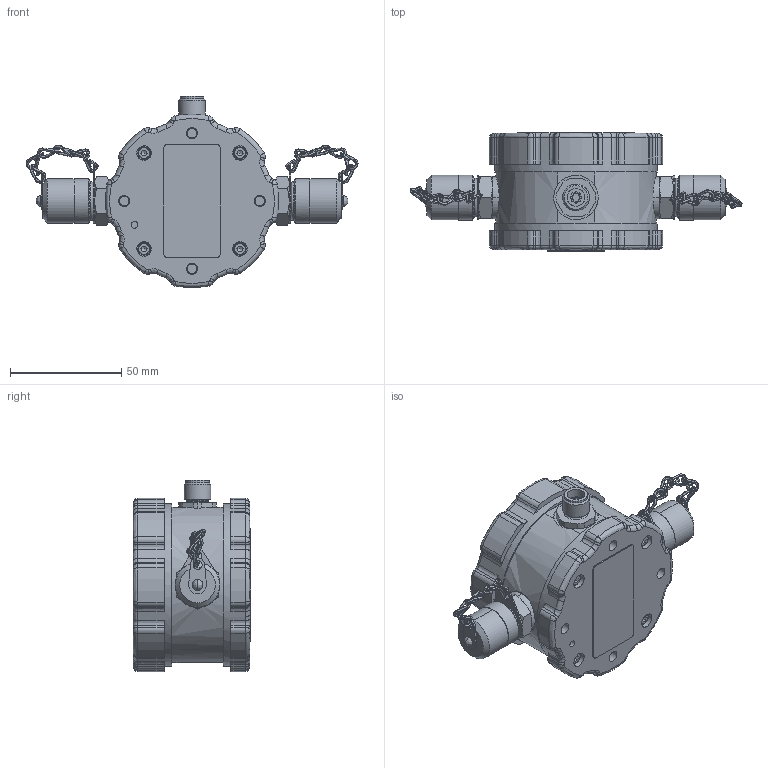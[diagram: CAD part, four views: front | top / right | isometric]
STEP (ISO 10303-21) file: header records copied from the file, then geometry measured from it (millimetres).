
FILE_DESCRIPTION((''),'2;1');
FILE_NAME('U:\Users\r.baumgaertner\OPCom_II.stp', '2013-03-26T08:32:45',('User'),('SDRC'),'I-DEAS Master Series 9','UNIX', 'Yes');
FILE_SCHEMA(('CONFIG_CONTROL_DESIGN', 'GEOMETRIC_VALIDATION_PROPERTIES_MIM','SHAPE_APPEARANCE_LAYER_MIM'));
Length unit declared in the file: millimetre
Bounding box: 149.31 x 53 x 85.92 mm (x, y, z)
Surface area: 52972.9 mm2 (no closed solid volume)
Topology: 0 solids, 30 shells, 2391 faces, 6394 edges, 4127 vertices
Faces by surface type: bspline 2391
Entity records: 117935 total; most frequent: CARTESIAN_POINT 77847, ORIENTED_EDGE 12536, EDGE_CURVE 6309, VERTEX_POINT 4032, OVER_RIDING_STYLED_ITEM 3946, EDGE_LOOP 2549, FACE_OUTER_BOUND 2391, ADVANCED_FACE 2391
